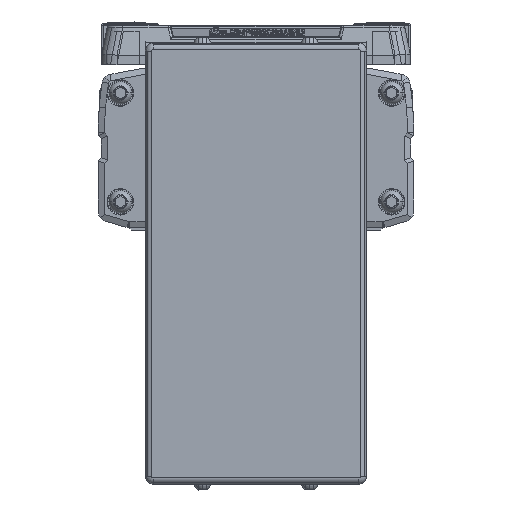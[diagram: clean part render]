
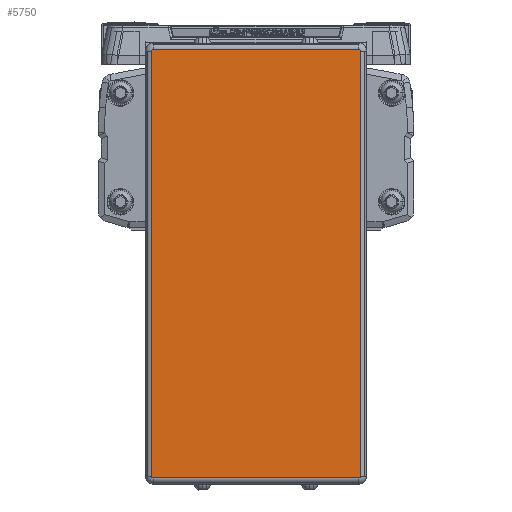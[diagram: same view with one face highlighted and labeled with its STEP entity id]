
A CAD part, left-side view. The second image highlights one B-rep face of the part: STEP entity #5750.
In plain terms, the highlighted planar face has unit normal (-1, 0, 0).
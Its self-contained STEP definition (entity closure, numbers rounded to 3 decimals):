
#5750=ADVANCED_FACE('',(#12045),#12046,.F.);
#12045=FACE_OUTER_BOUND('',#19342,.T.);
#12046=PLANE('',#19343);
#19342=EDGE_LOOP('',(#35857,#35858,#35859,#35860,#35861,#35862,#35863,#35864));
#19343=AXIS2_PLACEMENT_3D('',#35865,#35866,#35867);
#35857=ORIENTED_EDGE('',*,*,#42866,.T.);
#35858=ORIENTED_EDGE('',*,*,#40555,.T.);
#35859=ORIENTED_EDGE('',*,*,#43999,.T.);
#35860=ORIENTED_EDGE('',*,*,#42962,.T.);
#35861=ORIENTED_EDGE('',*,*,#46033,.T.);
#35862=ORIENTED_EDGE('',*,*,#47276,.T.);
#35863=ORIENTED_EDGE('',*,*,#46024,.T.);
#35864=ORIENTED_EDGE('',*,*,#44751,.T.);
#35865=CARTESIAN_POINT('',(-616.0,0.,-41.6));
#35866=DIRECTION('',(1.0,0.,0.));
#35867=DIRECTION('',(0.,0.,1.0));
#40555=EDGE_CURVE('',#48215,#48212,#48216,.T.);
#42866=EDGE_CURVE('',#52212,#48215,#52213,.T.);
#42962=EDGE_CURVE('',#52370,#52367,#52371,.T.);
#43999=EDGE_CURVE('',#48212,#52370,#54016,.T.);
#44751=EDGE_CURVE('',#55150,#52212,#55151,.T.);
#46024=EDGE_CURVE('',#56916,#55150,#56917,.T.);
#46033=EDGE_CURVE('',#52367,#56925,#56927,.T.);
#47276=EDGE_CURVE('',#56925,#56916,#58415,.T.);
#48212=VERTEX_POINT('',#59442);
#48215=VERTEX_POINT('',#59445);
#48216=CIRCLE('',#59446,0.5);
#52212=VERTEX_POINT('',#64951);
#52213=LINE('',#64952,#64953);
#52367=VERTEX_POINT('',#65156);
#52370=VERTEX_POINT('',#65159);
#52371=CIRCLE('',#65160,0.5);
#54016=LINE('',#67375,#67376);
#55150=VERTEX_POINT('',#68902);
#55151=CIRCLE('',#68903,0.5);
#56916=VERTEX_POINT('',#71466);
#56917=LINE('',#71467,#71468);
#56925=VERTEX_POINT('',#71478);
#56927=LINE('',#71480,#71481);
#58415=CIRCLE('',#73634,0.5);
#59442=CARTESIAN_POINT('',(-616.,-32.55,26.3));
#59445=CARTESIAN_POINT('',(-616.,-33.05,25.8));
#59446=AXIS2_PLACEMENT_3D('',#74823,#74824,#74825);
#64951=CARTESIAN_POINT('',(-616.0,-33.05,-109.));
#64952=CARTESIAN_POINT('',(-616.,-33.05,-41.6));
#64953=VECTOR('',#78104,10.0);
#65156=CARTESIAN_POINT('',(-616.,33.05,25.8));
#65159=CARTESIAN_POINT('',(-616.,32.55,26.3));
#65160=AXIS2_PLACEMENT_3D('',#78250,#78251,#78252);
#67375=CARTESIAN_POINT('',(-616.,0.,26.3));
#67376=VECTOR('',#79779,10.0);
#68902=CARTESIAN_POINT('',(-616.0,-32.55,-109.5));
#68903=AXIS2_PLACEMENT_3D('',#80867,#80868,#80869);
#71466=CARTESIAN_POINT('',(-616.0,32.55,-109.5));
#71467=CARTESIAN_POINT('',(-616.0,0.,-109.5));
#71468=VECTOR('',#82540,10.0);
#71478=CARTESIAN_POINT('',(-616.0,33.05,-109.));
#71480=CARTESIAN_POINT('',(-616.0,33.05,-41.6));
#71481=VECTOR('',#82549,10.0);
#73634=AXIS2_PLACEMENT_3D('',#83830,#83831,#83832);
#74823=CARTESIAN_POINT('',(-616.,-32.55,25.8));
#74824=DIRECTION('',(-1.0,0.,0.));
#74825=DIRECTION('',(0.,-0.707,0.707));
#78104=DIRECTION('',(0.,0.,1.0));
#78250=CARTESIAN_POINT('',(-616.,32.55,25.8));
#78251=DIRECTION('',(-1.0,0.,0.));
#78252=DIRECTION('',(0.,0.707,0.707));
#79779=DIRECTION('',(0.,1.0,0.));
#80867=CARTESIAN_POINT('',(-616.0,-32.55,-109.));
#80868=DIRECTION('',(-1.0,0.,0.));
#80869=DIRECTION('',(0.,-0.707,-0.707));
#82540=DIRECTION('',(0.,-1.0,0.));
#82549=DIRECTION('',(0.,0.,-1.0));
#83830=CARTESIAN_POINT('',(-616.0,32.55,-109.));
#83831=DIRECTION('',(-1.0,0.,0.));
#83832=DIRECTION('',(0.,0.707,-0.707));
